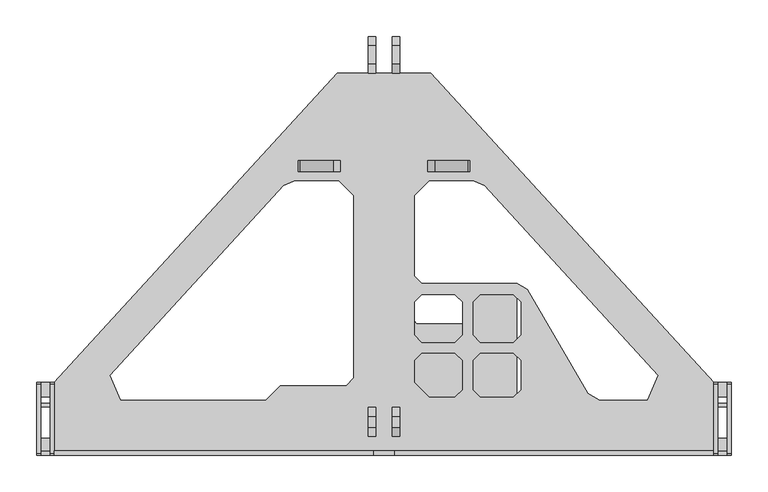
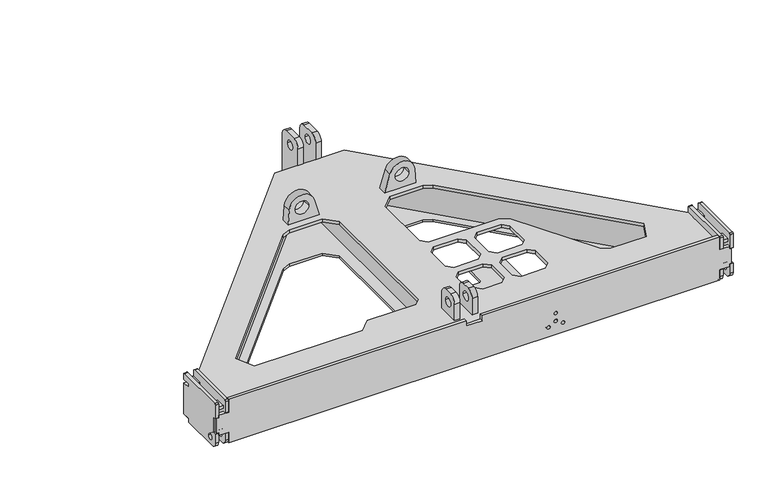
"""IFC4 building model written with IfcOpenShell, lengths in millimetres: proxy geometry, d&b SL-Series KSL Flying Frame : KSL Flying Frame."""

import ifcopenshell
import ifcopenshell.guid

model = None  # the IFC model being written
_history = None  # IfcOwnerHistory: only IFC2X3 demands one
_inside = {}  # id of a spatial element -> (the spatial element, [elements in it])
_under = {}  # id of a project, library or spatial element -> (it, [spatial elements below it])
_declared = {}  # id of a project -> (the project, [libraries it declares])
_typed = {}  # id of a type object -> (the type object, [elements of that type])
_made_of = {}  # id of a material, layer set ... -> (it, [elements and type objects made of it])


def new_model(schema):
    """Start an empty IFC model of exactly this schema.

    Asked for "IFC4X3", IfcOpenShell would pick the latest addendum, in which some entities
    have other attributes; the version numbers below select the first issue.
    IFC2X3 requires an IfcOwnerHistory on every rooted entity: one is made here for all.
    """
    global model, _history
    if schema == "IFC4X3":
        model = ifcopenshell.file(schema_version=(4, 3, 0, 0))
    else:
        model = ifcopenshell.file(schema=schema)
    _inside.clear()
    _under.clear()
    _declared.clear()
    _typed.clear()
    _made_of.clear()
    _history = None
    if model.schema == "IFC2X3":
        org = make("IfcOrganization", Name="unknown")
        user = make(
            "IfcPersonAndOrganization",
            ThePerson=make("IfcPerson", FamilyName="unknown"),
            TheOrganization=org,
        )
        app = make(
            "IfcApplication",
            ApplicationDeveloper=org,
            Version="unknown",
            ApplicationFullName="unknown",
            ApplicationIdentifier="unknown",
        )
        _history = make(
            "IfcOwnerHistory",
            OwningUser=user,
            OwningApplication=app,
            ChangeAction="ADDED",
            CreationDate=0,
        )
    return model


def make(cls, **values):
    """One entity of the class cls with the attributes given. An attribute that is None is left unset."""
    return model.create_entity(
        cls, **{name: value for name, value in values.items() if value is not None}
    )


def rooted(cls, **values):
    """An entity with a GlobalId (a new one), such as an element, a storey or a relation."""
    return make(cls, GlobalId=ifcopenshell.guid.new(), OwnerHistory=_history, **values)


def si_unit(unit_type, name, prefix=None):
    """IfcSIUnit, for example si_unit("LENGTHUNIT", "METRE", prefix="MILLI")."""
    return make("IfcSIUnit", UnitType=unit_type, Prefix=prefix, Name=name)


def assignment(units):
    """IfcUnitAssignment: the units of a project."""
    return None if units is None else make("IfcUnitAssignment", Units=units)


def point(xyz):
    """IfcCartesianPoint."""
    return None if xyz is None else make("IfcCartesianPoint", Coordinates=xyz)


def direction(xyz):
    """IfcDirection."""
    return None if xyz is None else make("IfcDirection", DirectionRatios=xyz)


def frame(location, z_axis=None, x_axis=None):
    """IfcAxis2Placement3D, a coordinate frame: its origin and axes. An axis left out is left unset."""
    return make(
        "IfcAxis2Placement3D",
        Location=point(location),
        Axis=direction(z_axis),
        RefDirection=direction(x_axis),
    )


def frame_2d(location, x_axis=None):
    """IfcAxis2Placement2D, a coordinate frame in the plane: its origin and x axis."""
    return make(
        "IfcAxis2Placement2D", Location=point(location), RefDirection=direction(x_axis)
    )


def origin():
    """The frame at (0, 0, 0) with its axes left unset."""
    return frame((0.0, 0.0, 0.0))


def origin_with_axes():
    """The frame at (0, 0, 0) with the z axis (0, 0, 1) and the x axis (1, 0, 0) written out."""
    return frame((0.0, 0.0, 0.0), z_axis=(0.0, 0.0, 1.0), x_axis=(1.0, 0.0, 0.0))


def place(relative_to, where):
    """IfcLocalPlacement: puts the frame where relative to a parent placement (None: the world)."""
    return make(
        "IfcLocalPlacement", PlacementRelTo=relative_to, RelativePlacement=where
    )


def context(
    kind, dimensions, precision=None, world=None, true_north=None, identifier=None
):
    """IfcGeometricRepresentationContext, for example the 3D "Model" context."""
    return make(
        "IfcGeometricRepresentationContext",
        ContextIdentifier=identifier,
        ContextType=kind,
        CoordinateSpaceDimension=dimensions,
        Precision=precision,
        WorldCoordinateSystem=world,
        TrueNorth=true_north,
    )


def project(units=None, contexts=None):
    """IfcProject with its units and contexts."""
    return rooted(
        "IfcProject",
        Name="project",
        RepresentationContexts=contexts,
        UnitsInContext=assignment(units),
    )


def spatial(cls, under=None, at=None, **own):
    """A site, building, storey or space (cls), placed at a placement, below another one or the project."""
    s = rooted(cls, ObjectPlacement=at, **own)
    if under is not None:
        _under.setdefault(under.id(), (under, []))[1].append(s)
    return s


def polyline(points):
    """IfcPolyline through the points."""
    return make("IfcPolyline", Points=[point(p) for p in points])


def circle_curve(where, radius):
    """IfcCircle in the frame where."""
    return make("IfcCircle", Position=where, Radius=radius)


def trimmed(basis, trim1, trim2, sense, master):
    """IfcTrimmedCurve: the piece of a basis curve between two trims."""
    return make(
        "IfcTrimmedCurve",
        BasisCurve=basis,
        Trim1=trim1,
        Trim2=trim2,
        SenseAgreement=sense,
        MasterRepresentation=master,
    )


def segment(curve, same_sense, transition):
    """IfcCompositeCurveSegment."""
    return make(
        "IfcCompositeCurveSegment",
        Transition=transition,
        SameSense=same_sense,
        ParentCurve=curve,
    )


def composite_curve(segments, self_intersect=None):
    """IfcCompositeCurve: segments joined end to end."""
    return make("IfcCompositeCurve", Segments=segments, SelfIntersect=self_intersect)


def outline(outer, holes=None, kind="AREA"):
    """IfcArbitraryClosedProfileDef: a profile drawn as a closed curve; with holes, ...WithVoids."""
    if holes is None:
        return make("IfcArbitraryClosedProfileDef", ProfileType=kind, OuterCurve=outer)
    return make(
        "IfcArbitraryProfileDefWithVoids",
        ProfileType=kind,
        OuterCurve=outer,
        InnerCurves=holes,
    )


def extrude(swept, where, along, depth):
    """IfcExtrudedAreaSolid: the profile swept, set in the frame where, extruded along a direction by depth."""
    return make(
        "IfcExtrudedAreaSolid",
        SweptArea=swept,
        Position=where,
        ExtrudedDirection=direction(along),
        Depth=depth,
    )


def shape(context_of_items, identifier, shape_type, items):
    """IfcShapeRepresentation: the items that make up one representation, for example the "Body"."""
    return make(
        "IfcShapeRepresentation",
        ContextOfItems=context_of_items,
        RepresentationIdentifier=identifier,
        RepresentationType=shape_type,
        Items=items,
    )


def source(mapping_origin, context_of_items, identifier, shape_type, items):
    """IfcRepresentationMap: a shape defined once, which mapped items show again and again."""
    return make(
        "IfcRepresentationMap",
        MappingOrigin=mapping_origin,
        MappedRepresentation=shape(context_of_items, identifier, shape_type, items),
    )


def transform(
    local_origin,
    x_axis=None,
    y_axis=None,
    z_axis=None,
    scale=None,
    scale2=None,
    scale3=None,
    uniform=True,
):
    """IfcCartesianTransformationOperator3D, or its non-uniform kind. x_axis, y_axis, z_axis: its Axis1, 2, 3."""
    if uniform:
        return make(
            "IfcCartesianTransformationOperator3D",
            Axis1=direction(x_axis),
            Axis2=direction(y_axis),
            LocalOrigin=point(local_origin),
            Scale=scale,
            Axis3=direction(z_axis),
        )
    return make(
        "IfcCartesianTransformationOperator3DnonUniform",
        Axis1=direction(x_axis),
        Axis2=direction(y_axis),
        LocalOrigin=point(local_origin),
        Scale=scale,
        Axis3=direction(z_axis),
        Scale2=scale2,
        Scale3=scale3,
    )


def mapped(mapping_source, mapping_target):
    """IfcMappedItem: shows the shape of a source again, moved by a transform."""
    return make(
        "IfcMappedItem", MappingSource=mapping_source, MappingTarget=mapping_target
    )


def made_of(thing, what):
    """Note that an element or type object is made of a material, layer set ...; save() writes the relation."""
    if what is not None:
        _made_of.setdefault(what.id(), (what, []))[1].append(thing)
    return thing


def element(
    cls,
    number,
    at=None,
    inside=None,
    cuts=None,
    type_object=None,
    material=None,
    context=None,
    identifier="Body",
    shape_type=None,
    held_by="IfcProductDefinitionShape",
    body=None,
    shapes=None,
    **own,
):
    """One element of the class cls, such as IfcWall. Its Tag is "e" and its number.

    at: its placement. inside: the storey or other place that contains it. cuts: it is an
    opening in that element (IfcRelVoidsElement). A single representation is given by context,
    identifier, shape_type and body (its items); several are given by shapes. held_by: the class
    of the entity that holds the representations. save() writes the other relations.
    """
    e = rooted(cls, Tag="e%d" % number, ObjectPlacement=at, **own)
    if body is not None:
        shapes = [shape(context, identifier, shape_type, body)]
    if shapes is not None:
        e.Representation = make(held_by, Representations=shapes)
    if inside is not None:
        _inside.setdefault(inside.id(), (inside, []))[1].append(e)
    if cuts is not None:
        rooted(
            "IfcRelVoidsElement", RelatingBuildingElement=cuts, RelatedOpeningElement=e
        )
    if type_object is not None:
        _typed.setdefault(type_object.id(), (type_object, []))[1].append(e)
    return made_of(e, material)


def aggregate(whole, parts):
    """IfcRelAggregates: a whole, such as a stair, and the parts it consists of."""
    return rooted("IfcRelAggregates", RelatingObject=whole, RelatedObjects=parts)


def save(model, path):
    """Write the relations noted so far, then the file.

    IfcRelAggregates (storeys below a building ...), IfcRelContainedInSpatialStructure (elements
    in a storey), IfcRelDefinesByType, IfcRelAssociatesMaterial and IfcRelDeclares: one each for
    every whole, place, type object, material and project.
    """
    for whole, parts in _under.values():
        aggregate(whole, parts)
    for where, things in _inside.values():
        rooted(
            "IfcRelContainedInSpatialStructure",
            RelatedElements=things,
            RelatingStructure=where,
        )
    for kind, things in _typed.values():
        rooted("IfcRelDefinesByType", RelatedObjects=things, RelatingType=kind)
    for what, things in _made_of.values():
        rooted("IfcRelAssociatesMaterial", RelatedObjects=things, RelatingMaterial=what)
    for by, libraries in _declared.values():
        rooted("IfcRelDeclares", RelatingContext=by, RelatedDefinitions=libraries)
    model.write(path)


def communication_devices_670856ec(model_context):
    return source(origin(), model_context, "Body", "SweptSolid", [
        extrude(outline(polyline([(-435.1164011, 93.4221199), (-438.8083101, 96.7940344), (-54.4100512, 517.6716633), (-50.7181421, 514.2997488), (-435.1164011, 93.4221199)])), frame((0.0, 0.0, 4.0), z_axis=(0.0, 0.0, 1.0), x_axis=(1.0, 0.0, 0.0)), (0.0, 0.0, 1.0), 61.0),
        extrude(outline(polyline([(-35.950506, 500.8120906), (-420.348765, 79.9344617), (-424.040674, 83.3063762), (-39.6424151, 504.1840051), (-35.950506, 500.8120906)])), frame((0.0, 0.0, 4.0), z_axis=(0.0, 0.0, 1.0), x_axis=(1.0, 0.0, 0.0)), (0.0, 0.0, 1.0), 61.0),
        extrude(outline(polyline([(435.1164011, 93.4221199), (50.7181421, 514.2997488), (54.4100512, 517.6716633), (438.8083101, 96.7940344), (435.1164011, 93.4221199)])), frame((0.0, 0.0, 4.0), z_axis=(0.0, 0.0, 1.0), x_axis=(1.0, 0.0, 0.0)), (0.0, 0.0, 1.0), 61.0),
        extrude(outline(polyline([(35.950506, 500.8120906), (39.6424151, 504.1840051), (424.040674, 83.3063762), (420.348765, 79.9344617), (35.950506, 500.8120906)])), frame((0.0, 0.0, 4.0), z_axis=(0.0, 0.0, 1.0), x_axis=(1.0, 0.0, 0.0)), (0.0, 0.0, 1.0), 61.0),
        extrude(outline(composite_curve([segment(trimmed(circle_curve(frame_2d((559.5, 103.0)), 12.5), [point((559.5, 115.5))], [point((572.0, 103.0))], False, "CARTESIAN"), True, "CONTINUOUS"), segment(polyline([(572.0, 103.0), (572.0, 16.5)]), True, "CONTINUOUS"), segment(trimmed(circle_curve(frame_2d((559.5, 16.5)), 12.5), [point((572.0, 16.5))], [point((559.5, 4.0))], False, "CARTESIAN"), True, "CONTINUOUS"), segment(polyline([(559.5, 4.0), (70.25, 4.0), (70.25, 65.0), (522.0, 65.0), (522.0, 103.0)]), True, "CONTINUOUS"), segment(trimmed(circle_curve(frame_2d((534.5, 103.0)), 12.5), [point((522.0, 103.0))], [point((534.5, 115.5))], False, "CARTESIAN"), True, "CONTINUOUS"), segment(polyline([(534.5, 115.5), (559.5, 115.5)]), True, "CONTINUOUS")], self_intersect=False), holes=[composite_curve([segment(trimmed(circle_curve(frame_2d((547.0, 95.5)), 8.2930381), [point((538.7069619, 95.5))], [point((555.2930381, 95.5))], True, "CARTESIAN"), True, "CONTINUOUS"), segment(trimmed(circle_curve(frame_2d((547.0, 95.5)), 8.2930381), [point((555.2930381, 95.5))], [point((538.7069619, 95.5))], True, "CARTESIAN"), True, "CONTINUOUS")], self_intersect=False), composite_curve([segment(trimmed(circle_curve(frame_2d((547.0, 22.0)), 8.2930381), [point((538.7069619, 22.0))], [point((555.2930381, 22.0))], True, "CARTESIAN"), True, "CONTINUOUS"), segment(trimmed(circle_curve(frame_2d((547.0, 22.0)), 8.2930381), [point((555.2930381, 22.0))], [point((538.7069619, 22.0))], True, "CARTESIAN"), True, "CONTINUOUS")], self_intersect=False)]), frame((11.25, 0.0, 0.0), z_axis=(1.0, 0.0, 0.0), x_axis=(0.0, 1.0, 0.0)), (0.0, 0.0, 1.0), 10.0),
        extrude(outline(composite_curve([segment(polyline([(64.0, 71.0), (24.0, 71.0), (24.0, 103.0091443)]), True, "CONTINUOUS"), segment(trimmed(circle_curve(frame_2d((36.4908557, 103.0091443)), 12.4908557), [point((24.0, 103.0091443))], [point((36.4908557, 115.5))], False, "CARTESIAN"), True, "CONTINUOUS"), segment(polyline([(36.4908557, 115.5), (51.5, 115.5)]), True, "CONTINUOUS"), segment(trimmed(circle_curve(frame_2d((51.5, 103.0)), 12.5), [point((51.5, 115.5))], [point((64.0, 103.0))], False, "CARTESIAN"), True, "CONTINUOUS"), segment(polyline([(64.0, 103.0), (64.0, 71.0)]), True, "CONTINUOUS")], self_intersect=False), holes=[composite_curve([segment(trimmed(circle_curve(frame_2d((43.9954278, 95.5)), 8.2930381), [point((35.7023897, 95.5))], [point((52.288466, 95.5))], True, "CARTESIAN"), True, "CONTINUOUS"), segment(trimmed(circle_curve(frame_2d((43.9954278, 95.5)), 8.2930381), [point((52.288466, 95.5))], [point((35.7023897, 95.5))], True, "CARTESIAN"), True, "CONTINUOUS")], self_intersect=False)]), frame((11.25, 0.0, 0.0), z_axis=(1.0, 0.0, 0.0), x_axis=(0.0, 1.0, 0.0)), (0.0, 0.0, 1.0), 10.0),
        extrude(outline(polyline([(-472.75, 98.0), (-451.25, 98.0), (-64.0, 522.0), (64.0, 522.0), (451.25, 98.0), (472.75, 98.0), (472.75, 82.5), (469.75, 82.5), (469.75, 78.0), (457.25, 78.0), (457.25, 82.5), (451.25, 82.5), (451.25, 4.0), (-451.25, 4.0), (-451.25, 82.5), (-457.25, 82.5), (-457.25, 78.0), (-469.75, 78.0), (-469.75, 82.5), (-472.75, 82.5), (-472.75, 98.0)]), holes=[polyline([(-360.1013992, 74.0), (-62.0, 74.0), (-42.0, 94.0), (-42.0, 354.0), (-62.0, 374.0), (-122.6367766, 374.0), (-137.4044127, 367.4876582), (-374.8690353, 107.4876582), (-360.1013992, 74.0)]), polyline([(122.6367766, 374.0), (62.0, 374.0), (42.0, 354.0), (42.0, 182.0), (45.0, 179.0), (114.5, 179.0), (117.5, 182.0), (117.5, 221.0), (120.5, 224.0), (179.5, 224.0), (182.5, 221.0), (182.5, 77.0), (185.5, 74.0), (360.1013992, 74.0), (374.8690353, 107.4876582), (137.4044127, 367.4876582), (122.6367766, 374.0)])]), origin_with_axes(), (0.0, 0.0, 1.0), 4.0),
        extrude(outline(composite_curve([segment(polyline([(0.0, 84.0), (96.0, 84.0)]), True, "CONTINUOUS"), segment(trimmed(circle_curve(frame_2d((96.0, 82.0)), 2.0), [point((96.0, 84.0))], [point((98.0, 82.0))], False, "CARTESIAN"), True, "CONTINUOUS"), segment(polyline([(98.0, 82.0), (98.0, 71.5), (82.5, 71.5), (82.5, 64.5), (98.0, 64.5), (98.0, 4.5), (82.5, 4.5), (82.5, -1.0)]), True, "CONTINUOUS"), segment(trimmed(circle_curve(frame_2d((80.5, -1.0)), 2.0), [point((82.5, -1.0))], [point((80.5, -3.0))], False, "CARTESIAN"), True, "CONTINUOUS"), segment(polyline([(80.5, -3.0), (8.0, -3.0)]), True, "CONTINUOUS"), segment(trimmed(circle_curve(frame_2d((8.0, 7.0)), 10.0), [point((8.0, -3.0))], [point((-2.0, 7.0))], False, "CARTESIAN"), True, "CONTINUOUS"), segment(polyline([(-2.0, 7.0), (-2.0, 20.0), (4.5, 20.0), (4.5, 60.0), (-2.0, 60.0), (-2.0, 82.0)]), True, "CONTINUOUS"), segment(trimmed(circle_curve(frame_2d((0.0, 82.0)), 2.0), [point((-2.0, 82.0))], [point((0.0, 84.0))], False, "CARTESIAN"), True, "CONTINUOUS")], self_intersect=False), holes=[composite_curve([segment(trimmed(circle_curve(frame_2d((14.0, 11.0)), 5.15), [point((8.85, 11.0))], [point((19.15, 11.0))], True, "CARTESIAN"), True, "CONTINUOUS"), segment(trimmed(circle_curve(frame_2d((14.0, 11.0)), 5.15), [point((19.15, 11.0))], [point((8.85, 11.0))], True, "CARTESIAN"), True, "CONTINUOUS")], self_intersect=False)]), frame((451.25, 0.0, 0.0), z_axis=(1.0, 0.0, 0.0), x_axis=(0.0, 1.0, 0.0)), (0.0, 0.0, 1.0), 6.0),
        extrude(outline(composite_curve([segment(polyline([(0.0, 84.0), (96.0, 84.0)]), True, "CONTINUOUS"), segment(trimmed(circle_curve(frame_2d((96.0, 82.0)), 2.0), [point((96.0, 84.0))], [point((98.0, 82.0))], False, "CARTESIAN"), True, "CONTINUOUS"), segment(polyline([(98.0, 82.0), (98.0, 71.5), (82.5, 71.5), (82.5, 64.5), (98.0, 64.5), (98.0, 4.5), (82.5, 4.5), (82.5, -1.0)]), True, "CONTINUOUS"), segment(trimmed(circle_curve(frame_2d((80.5, -1.0)), 2.0), [point((82.5, -1.0))], [point((80.5, -3.0))], False, "CARTESIAN"), True, "CONTINUOUS"), segment(polyline([(80.5, -3.0), (8.0, -3.0)]), True, "CONTINUOUS"), segment(trimmed(circle_curve(frame_2d((8.0, 7.0)), 10.0), [point((8.0, -3.0))], [point((-2.0, 7.0))], False, "CARTESIAN"), True, "CONTINUOUS"), segment(polyline([(-2.0, 7.0), (-2.0, 24.9561632), (4.5, 24.9561632), (4.5, 55.0), (-2.0, 55.0), (-2.0, 82.0)]), True, "CONTINUOUS"), segment(trimmed(circle_curve(frame_2d((0.0, 82.0)), 2.0), [point((-2.0, 82.0))], [point((0.0, 84.0))], False, "CARTESIAN"), True, "CONTINUOUS")], self_intersect=False), holes=[composite_curve([segment(trimmed(circle_curve(frame_2d((14.0, 11.0)), 5.15), [point((8.85, 11.0))], [point((19.15, 11.0))], True, "CARTESIAN"), True, "CONTINUOUS"), segment(trimmed(circle_curve(frame_2d((14.0, 11.0)), 5.15), [point((19.15, 11.0))], [point((8.85, 11.0))], True, "CARTESIAN"), True, "CONTINUOUS")], self_intersect=False)]), frame((469.75, 0.0, 0.0), z_axis=(1.0, 0.0, 0.0), x_axis=(0.0, 1.0, 0.0)), (0.0, 0.0, 1.0), 6.0),
        extrude(outline(polyline([(457.25, 4.0), (457.25, 21.0), (469.75, 21.0), (469.75, 4.0), (457.25, 4.0)])), frame((0.0, 0.0, 65.0), z_axis=(0.0, 0.0, 1.0), x_axis=(1.0, 0.0, 0.0)), (0.0, 0.0, 1.0), 6.0),
        extrude(outline(polyline([(457.25, 78.0), (457.25, 98.0), (469.75, 98.0), (469.75, 78.0), (457.25, 78.0)])), frame((0.0, 0.0, 65.0), z_axis=(0.0, 0.0, 1.0), x_axis=(1.0, 0.0, 0.0)), (0.0, 0.0, 1.0), 6.0),
        extrude(outline(polyline([(457.25, 64.25), (457.25, 69.25), (469.75, 69.25), (469.75, 64.25), (457.25, 64.25)])), frame((0.0, 0.0, 8.0), z_axis=(0.0, 0.0, 1.0), x_axis=(1.0, 0.0, 0.0)), (0.0, 0.0, 1.0), 53.0),
        extrude(outline(polyline([(84.0, -451.25), (59.5, -451.25), (59.5, -469.75), (54.5, -469.75), (54.5, -472.75), (25.5, -472.75), (25.5, -469.75), (20.5, -469.75), (20.5, -451.25), (0.0, -451.25), (0.0, 451.25), (20.5, 451.25), (20.5, 469.75), (25.5, 469.75), (25.5, 472.75), (54.5, 472.75), (54.5, 469.75), (59.5, 469.75), (59.5, 451.25), (84.0, 451.25), (84.0, 15.0), (74.0, 15.0), (74.0, -15.0), (84.0, -15.0), (84.0, -451.25)]), holes=[composite_curve([segment(trimmed(circle_curve(frame_2d((41.5186632, 150.0)), 2.9557723), [point((41.5186632, 147.0442277))], [point((41.5186632, 152.9557723))], True, "CARTESIAN"), True, "CONTINUOUS"), segment(trimmed(circle_curve(frame_2d((41.5186632, 150.0)), 2.9557723), [point((41.5186632, 152.9557723))], [point((41.5186632, 147.0442277))], True, "CARTESIAN"), True, "CONTINUOUS")], self_intersect=False), composite_curve([segment(trimmed(circle_curve(frame_2d((26.2061632, 150.0)), 3.0), [point((26.2061632, 147.0))], [point((26.2061632, 153.0))], True, "CARTESIAN"), True, "CONTINUOUS"), segment(trimmed(circle_curve(frame_2d((26.2061632, 150.0)), 3.0), [point((26.2061632, 153.0))], [point((26.2061632, 147.0))], True, "CARTESIAN"), True, "CONTINUOUS")], self_intersect=False), composite_curve([segment(trimmed(circle_curve(frame_2d((18.5400166, 136.7752193)), 3.0), [point((18.5400166, 133.7752193))], [point((18.5400166, 139.7752193))], True, "CARTESIAN"), True, "CONTINUOUS"), segment(trimmed(circle_curve(frame_2d((18.5400166, 136.7752193)), 3.0), [point((18.5400166, 139.7752193))], [point((18.5400166, 133.7752193))], True, "CARTESIAN"), True, "CONTINUOUS")], self_intersect=False), composite_curve([segment(trimmed(circle_curve(frame_2d((18.5400166, 163.2247807)), 3.0), [point((18.5400166, 160.2247807))], [point((18.5400166, 166.2247807))], True, "CARTESIAN"), True, "CONTINUOUS"), segment(trimmed(circle_curve(frame_2d((18.5400166, 163.2247807)), 3.0), [point((18.5400166, 166.2247807))], [point((18.5400166, 160.2247807))], True, "CARTESIAN"), True, "CONTINUOUS")], self_intersect=False)]), frame((0.0, -2.0, 0.0), z_axis=(0.0, 1.0, 0.0), x_axis=(0.0, 0.0, 1.0)), (0.0, 0.0, 1.0), 6.0),
        extrude(outline(composite_curve([segment(polyline([(0.0, 84.0), (96.0, 84.0)]), True, "CONTINUOUS"), segment(trimmed(circle_curve(frame_2d((96.0, 82.0)), 2.0), [point((96.0, 84.0))], [point((98.0, 82.0))], False, "CARTESIAN"), True, "CONTINUOUS"), segment(polyline([(98.0, 82.0), (98.0, 71.5), (82.5, 71.5), (82.5, 64.5), (98.0, 64.5), (98.0, 4.5), (82.5, 4.5), (82.5, -1.0)]), True, "CONTINUOUS"), segment(trimmed(circle_curve(frame_2d((80.5, -1.0)), 2.0), [point((82.5, -1.0))], [point((80.5, -3.0))], False, "CARTESIAN"), True, "CONTINUOUS"), segment(polyline([(80.5, -3.0), (8.0, -3.0)]), True, "CONTINUOUS"), segment(trimmed(circle_curve(frame_2d((8.0, 7.0)), 10.0), [point((8.0, -3.0))], [point((-2.0, 7.0))], False, "CARTESIAN"), True, "CONTINUOUS"), segment(polyline([(-2.0, 7.0), (-2.0, 20.0), (4.5, 20.0), (4.5, 60.0), (-2.0, 60.0), (-2.0, 82.0)]), True, "CONTINUOUS"), segment(trimmed(circle_curve(frame_2d((0.0, 82.0)), 2.0), [point((-2.0, 82.0))], [point((0.0, 84.0))], False, "CARTESIAN"), True, "CONTINUOUS")], self_intersect=False), holes=[composite_curve([segment(trimmed(circle_curve(frame_2d((14.0, 11.0)), 5.15), [point((8.85, 11.0))], [point((19.15, 11.0))], True, "CARTESIAN"), True, "CONTINUOUS"), segment(trimmed(circle_curve(frame_2d((14.0, 11.0)), 5.15), [point((19.15, 11.0))], [point((8.85, 11.0))], True, "CARTESIAN"), True, "CONTINUOUS")], self_intersect=False)]), frame((-457.25, 0.0, 0.0), z_axis=(1.0, 0.0, 0.0), x_axis=(0.0, 1.0, 0.0)), (0.0, 0.0, 1.0), 6.0),
        extrude(outline(composite_curve([segment(polyline([(0.0, 84.0), (96.0, 84.0)]), True, "CONTINUOUS"), segment(trimmed(circle_curve(frame_2d((96.0, 82.0)), 2.0), [point((96.0, 84.0))], [point((98.0, 82.0))], False, "CARTESIAN"), True, "CONTINUOUS"), segment(polyline([(98.0, 82.0), (98.0, 71.5), (82.5, 71.5), (82.5, 64.5), (98.0, 64.5), (98.0, 4.5), (82.5, 4.5), (82.5, -1.0)]), True, "CONTINUOUS"), segment(trimmed(circle_curve(frame_2d((80.5, -1.0)), 2.0), [point((82.5, -1.0))], [point((80.5, -3.0))], False, "CARTESIAN"), True, "CONTINUOUS"), segment(polyline([(80.5, -3.0), (8.0, -3.0)]), True, "CONTINUOUS"), segment(trimmed(circle_curve(frame_2d((8.0, 7.0)), 10.0), [point((8.0, -3.0))], [point((-2.0, 7.0))], False, "CARTESIAN"), True, "CONTINUOUS"), segment(polyline([(-2.0, 7.0), (-2.0, 24.9561632), (4.5, 24.9561632), (4.5, 55.0), (-2.0, 55.0), (-2.0, 82.0)]), True, "CONTINUOUS"), segment(trimmed(circle_curve(frame_2d((0.0, 82.0)), 2.0), [point((-2.0, 82.0))], [point((0.0, 84.0))], False, "CARTESIAN"), True, "CONTINUOUS")], self_intersect=False), holes=[composite_curve([segment(trimmed(circle_curve(frame_2d((14.0, 11.0)), 5.15), [point((8.85, 11.0))], [point((19.15, 11.0))], True, "CARTESIAN"), True, "CONTINUOUS"), segment(trimmed(circle_curve(frame_2d((14.0, 11.0)), 5.15), [point((19.15, 11.0))], [point((8.85, 11.0))], True, "CARTESIAN"), True, "CONTINUOUS")], self_intersect=False)]), frame((-475.75, 0.0, 0.0), z_axis=(1.0, 0.0, 0.0), x_axis=(0.0, 1.0, 0.0)), (0.0, 0.0, 1.0), 6.0),
        extrude(outline(composite_curve([segment(trimmed(circle_curve(frame_2d((97.0403038, 92.0042964)), 23.4926614), [point((98.8207703, 115.4293915))], [point((103.7189339, 69.4809522))], False, "CARTESIAN"), True, "CONTINUOUS"), segment(polyline([(103.7189339, 69.4809522), (71.0, 59.7791221), (71.0, 117.5439592), (98.8207703, 115.4293915)]), True, "CONTINUOUS")], self_intersect=False), holes=[composite_curve([segment(trimmed(circle_curve(frame_2d((95.9465538, 92.0042964)), 12.4025698), [point((95.9465538, 104.4068662))], [point((95.9465538, 79.6017267))], True, "CARTESIAN"), True, "CONTINUOUS"), segment(trimmed(circle_curve(frame_2d((95.9465538, 92.0042964)), 12.4025698), [point((95.9465538, 79.6017267))], [point((95.9465538, 104.4068662))], True, "CARTESIAN"), True, "CONTINUOUS")], self_intersect=False)]), frame((0.0, 386.75, 0.0), z_axis=(0.0, 1.0, 0.0), x_axis=(0.0, 0.0, 1.0)), (0.0, 0.0, 1.0), 15.0),
        extrude(outline(composite_curve([segment(polyline([(98.8207703, -115.4293915), (71.0, -117.5439592), (71.0, -59.7791221), (103.7189339, -69.4809522)]), True, "CONTINUOUS"), segment(trimmed(circle_curve(frame_2d((97.0403038, -92.0042964)), 23.4926614), [point((103.7189339, -69.4809522))], [point((98.8207703, -115.4293915))], False, "CARTESIAN"), True, "CONTINUOUS")], self_intersect=False), holes=[composite_curve([segment(trimmed(circle_curve(frame_2d((95.9465538, -92.0042964)), 12.4025698), [point((95.9465538, -79.6017267))], [point((95.9465538, -104.4068662))], True, "CARTESIAN"), True, "CONTINUOUS"), segment(trimmed(circle_curve(frame_2d((95.9465538, -92.0042964)), 12.4025698), [point((95.9465538, -104.4068662))], [point((95.9465538, -79.6017267))], True, "CARTESIAN"), True, "CONTINUOUS")], self_intersect=False)]), frame((0.0, 386.75, 0.0), z_axis=(0.0, 1.0, 0.0), x_axis=(0.0, 0.0, 1.0)), (0.0, 0.0, 1.0), 15.0),
        extrude(outline(composite_curve([segment(trimmed(circle_curve(frame_2d((559.5, 103.0)), 12.5), [point((559.5, 115.5))], [point((572.0, 103.0))], False, "CARTESIAN"), True, "CONTINUOUS"), segment(polyline([(572.0, 103.0), (572.0, 16.5)]), True, "CONTINUOUS"), segment(trimmed(circle_curve(frame_2d((559.5, 16.5)), 12.5), [point((572.0, 16.5))], [point((559.5, 4.0))], False, "CARTESIAN"), True, "CONTINUOUS"), segment(polyline([(559.5, 4.0), (69.25, 4.0), (69.25, 65.0), (522.0, 65.0), (522.0, 103.0)]), True, "CONTINUOUS"), segment(trimmed(circle_curve(frame_2d((534.5, 103.0)), 12.5), [point((522.0, 103.0))], [point((534.5, 115.5))], False, "CARTESIAN"), True, "CONTINUOUS"), segment(polyline([(534.5, 115.5), (559.5, 115.5)]), True, "CONTINUOUS")], self_intersect=False), holes=[composite_curve([segment(trimmed(circle_curve(frame_2d((547.0, 95.5)), 8.2930381), [point((538.7069619, 95.5))], [point((555.2930381, 95.5))], True, "CARTESIAN"), True, "CONTINUOUS"), segment(trimmed(circle_curve(frame_2d((547.0, 95.5)), 8.2930381), [point((555.2930381, 95.5))], [point((538.7069619, 95.5))], True, "CARTESIAN"), True, "CONTINUOUS")], self_intersect=False), composite_curve([segment(trimmed(circle_curve(frame_2d((547.0, 22.0)), 8.2930381), [point((538.7069619, 22.0))], [point((555.2930381, 22.0))], True, "CARTESIAN"), True, "CONTINUOUS"), segment(trimmed(circle_curve(frame_2d((547.0, 22.0)), 8.2930381), [point((555.2930381, 22.0))], [point((538.7069619, 22.0))], True, "CARTESIAN"), True, "CONTINUOUS")], self_intersect=False)]), frame((-21.25, 0.0, 0.0), z_axis=(1.0, 0.0, 0.0), x_axis=(0.0, 1.0, 0.0)), (0.0, 0.0, 1.0), 10.0),
        extrude(outline(composite_curve([segment(polyline([(64.0, 71.0), (24.0, 71.0), (24.0, 103.0091443)]), True, "CONTINUOUS"), segment(trimmed(circle_curve(frame_2d((36.4908557, 103.0091443)), 12.4908557), [point((24.0, 103.0091443))], [point((36.4908557, 115.5))], False, "CARTESIAN"), True, "CONTINUOUS"), segment(polyline([(36.4908557, 115.5), (51.5, 115.5)]), True, "CONTINUOUS"), segment(trimmed(circle_curve(frame_2d((51.5, 103.0)), 12.5), [point((51.5, 115.5))], [point((64.0, 103.0))], False, "CARTESIAN"), True, "CONTINUOUS"), segment(polyline([(64.0, 103.0), (64.0, 71.0)]), True, "CONTINUOUS")], self_intersect=False), holes=[composite_curve([segment(trimmed(circle_curve(frame_2d((43.9954278, 95.5)), 8.2930381), [point((35.7023897, 95.5))], [point((52.288466, 95.5))], True, "CARTESIAN"), True, "CONTINUOUS"), segment(trimmed(circle_curve(frame_2d((43.9954278, 95.5)), 8.2930381), [point((52.288466, 95.5))], [point((35.7023897, 95.5))], True, "CARTESIAN"), True, "CONTINUOUS")], self_intersect=False)]), frame((-21.25, 0.0, 0.0), z_axis=(1.0, 0.0, 0.0), x_axis=(0.0, 1.0, 0.0)), (0.0, 0.0, 1.0), 10.0),
        extrude(outline(polyline([(-451.25, 98.0), (-64.0, 522.0), (64.0, 522.0), (451.25, 98.0), (451.25, 4.0), (-451.25, 4.0), (-451.25, 98.0)]), holes=[polyline([(42.0, 98.0), (62.0, 78.0), (97.0, 78.0), (107.0, 88.0), (107.0, 128.0), (97.0, 138.0), (52.0, 138.0), (42.0, 128.0), (42.0, 98.0)]), polyline([(122.0, 128.0), (122.0, 88.0), (132.0, 78.0), (177.0, 78.0), (187.0, 88.0), (187.0, 128.0), (177.0, 138.0), (132.0, 138.0), (122.0, 128.0)]), polyline([(122.0, 163.0), (132.0, 153.0), (177.0, 153.0), (187.0, 163.0), (187.0, 208.0), (177.0, 218.0), (132.0, 218.0), (122.0, 208.0), (122.0, 163.0)]), polyline([(107.0, 163.0), (107.0, 208.0), (97.0, 218.0), (52.0, 218.0), (42.0, 208.0), (42.0, 163.0), (52.0, 153.0), (97.0, 153.0), (107.0, 163.0)]), polyline([(-137.4044127, 367.4876582), (-374.8690353, 107.4876582), (-360.1013992, 74.0), (-162.0, 74.0), (-142.0, 94.0), (-52.0, 94.0), (-42.0, 104.0), (-42.0, 354.0), (-62.0, 374.0), (-122.6367766, 374.0), (-137.4044127, 367.4876582)]), polyline([(279.3760431, 82.660254), (294.3760431, 74.0), (360.1013992, 74.0), (374.8690353, 107.4876582), (137.4044127, 367.4876582), (122.6367766, 374.0), (62.0, 374.0), (42.0, 354.0), (42.0, 244.0), (52.0, 234.0), (182.0, 234.0), (197.0, 225.339746), (279.3760431, 82.660254)])]), frame((0.0, 0.0, 65.0), z_axis=(0.0, 0.0, 1.0), x_axis=(1.0, 0.0, 0.0)), (0.0, 0.0, 1.0), 6.0),
        extrude(outline(polyline([(-451.25, 4.0), (-451.25, 69.25), (451.25, 69.25), (451.25, 4.0), (-451.25, 4.0)])), frame((0.0, 0.0, 4.0), z_axis=(0.0, 0.0, 1.0), x_axis=(1.0, 0.0, 0.0)), (0.0, 0.0, 1.0), 61.0),
        extrude(outline(polyline([(-457.25, 21.0), (-457.25, 4.0), (-469.75, 4.0), (-469.75, 21.0), (-457.25, 21.0)])), frame((0.0, 0.0, 65.0), z_axis=(0.0, 0.0, 1.0), x_axis=(1.0, 0.0, 0.0)), (0.0, 0.0, 1.0), 6.0),
        extrude(outline(polyline([(-457.25, 98.0), (-457.25, 78.0), (-469.75, 78.0), (-469.75, 98.0), (-457.25, 98.0)])), frame((0.0, 0.0, 65.0), z_axis=(0.0, 0.0, 1.0), x_axis=(1.0, 0.0, 0.0)), (0.0, 0.0, 1.0), 6.0),
        extrude(outline(polyline([(-457.25, 69.25), (-457.25, 64.25), (-469.75, 64.25), (-469.75, 69.25), (-457.25, 69.25)])), frame((0.0, 0.0, 8.0), z_axis=(0.0, 0.0, 1.0), x_axis=(1.0, 0.0, 0.0)), (0.0, 0.0, 1.0), 53.0),
    ])


if __name__ == "__main__":
    model = new_model("IFC4")
    model_context = context("Model", 3, world=origin())
    ifc_project = project(units=[si_unit("LENGTHUNIT", "METRE", prefix="MILLI")], contexts=[model_context])
    site = spatial("IfcSite", under=ifc_project)
    building = spatial("IfcBuilding", under=site)
    placement = place(None, origin())
    communication_devices_shape = communication_devices_670856ec(model_context)
    element("IfcBuildingElementProxy", 1, Name="d&b SL-Series KSL Flying Frame : KSL Flying Frame", ObjectType="d&b SL-Series KSL Flying Frame : KSL Flying Frame", at=placement, inside=building, context=model_context, shape_type="MappedRepresentation", body=[
        mapped(communication_devices_shape, transform((0.0, 0.0, 0.0), x_axis=(1.0, 0.0, 0.0), y_axis=(0.0, 1.0, 0.0), z_axis=(0.0, 0.0, 1.0))),
    ])
    save(model, "model.ifc")
